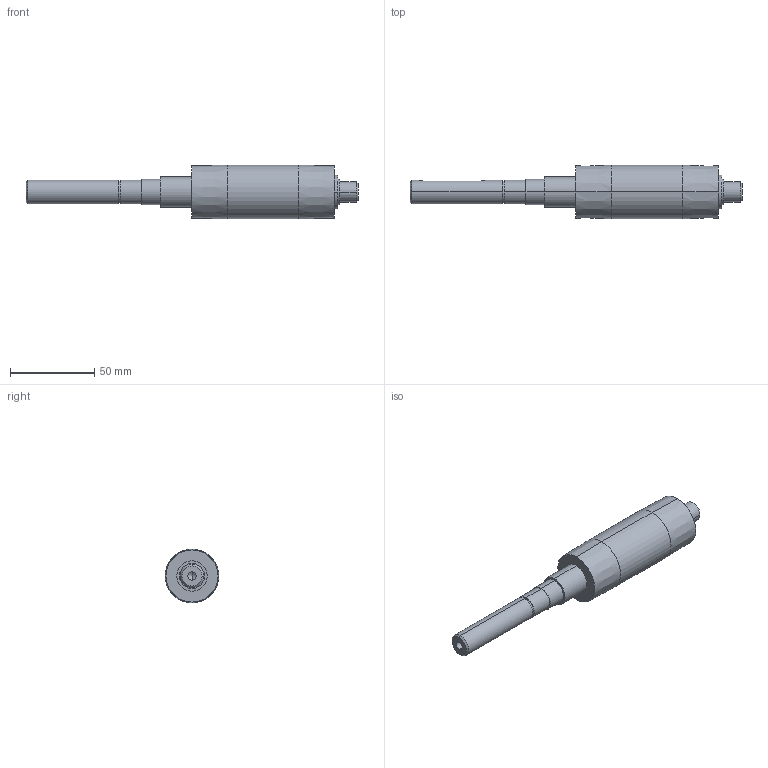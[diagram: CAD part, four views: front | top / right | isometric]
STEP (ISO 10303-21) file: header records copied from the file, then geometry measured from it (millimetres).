
FILE_DESCRIPTION (( 'STEP AP214' ), '1' );
FILE_NAME ('084.030.106.STEP', '2021-02-05T15:32:50', ( '' ), ( '' ), 'SwSTEP 2.0', 'SolidWorks 2018', '' );
FILE_SCHEMA (( 'AUTOMOTIVE_DESIGN' ));
Length unit declared in the file: millimetre
Products named in the file (1): 084.030.106
Bounding box: 197.5 x 32 x 32 mm (x, y, z)
Volume: 85596.2 mm3; surface area: 15699.2 mm2
Topology: 1 solids, 1 shells, 45 faces, 92 edges, 57 vertices
Faces by surface type: cylinder 22, plane 13, cone 10
Entity records: 1296 total; most frequent: CARTESIAN_POINT 255, DIRECTION 230, ORIENTED_EDGE 180, AXIS2_PLACEMENT_3D 96, EDGE_CURVE 90, VERTEX_POINT 57, EDGE_LOOP 55, CIRCLE 50
